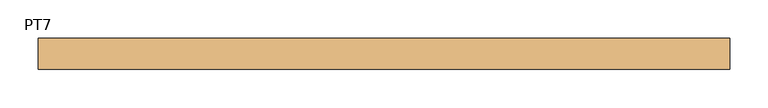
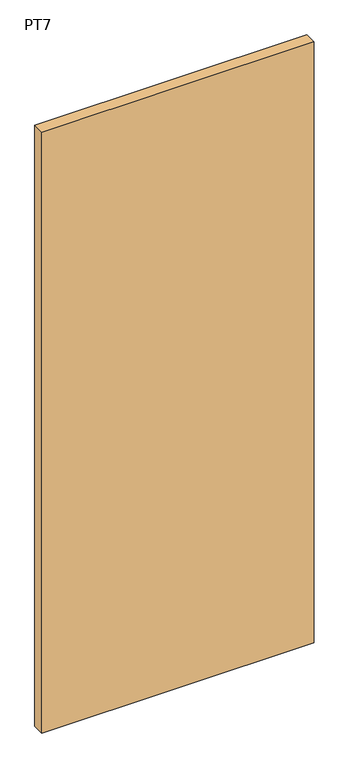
"""IFC4 building model written with IfcOpenShell, lengths in millimetres: door geometry, 営_パーティションドア : PT7."""

from ifc_helpers import new_model, si_unit, origin, origin_with_axes, place, context, project, spatial, polyline, outline, extrude, source, transform, mapped, element, save


def pt7_9d475353(model_context):
    return source(origin(), model_context, "Body", "SweptSolid", [
        extrude(outline(polyline([(450.0, 20.0), (450.0, -20.0), (-450.0, -20.0), (-450.0, 20.0), (450.0, 20.0)])), origin_with_axes(), (0.0, 0.0, 1.0), 2100.0),
    ])


if __name__ == "__main__":
    model = new_model("IFC4")
    model_context = context("Model", 3, world=origin())
    ifc_project = project(units=[si_unit("LENGTHUNIT", "METRE", prefix="MILLI")], contexts=[model_context])
    site = spatial("IfcSite", under=ifc_project)
    building = spatial("IfcBuilding", under=site)
    placement = place(None, origin())
    pt7_shape = pt7_9d475353(model_context)
    element("IfcDoor", 1, ObjectType="営_パーティションドア : PT7", at=placement, inside=building, context=model_context, shape_type="MappedRepresentation", body=[
        mapped(pt7_shape, transform((0.0, 0.0, 0.0), x_axis=(1.0, 0.0, 0.0), y_axis=(0.0, 1.0, 0.0), z_axis=(0.0, 0.0, 1.0))),
    ])
    save(model, "model.ifc")
